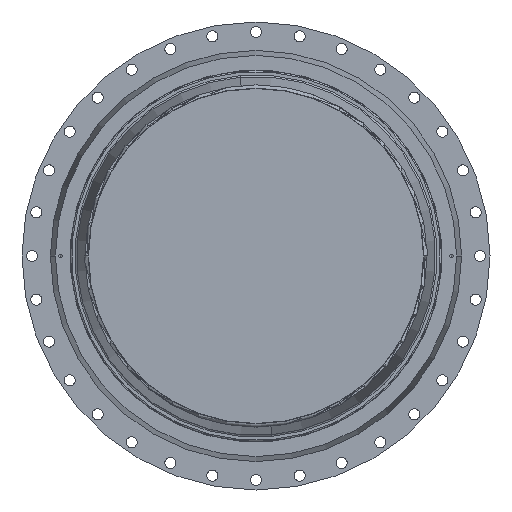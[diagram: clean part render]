
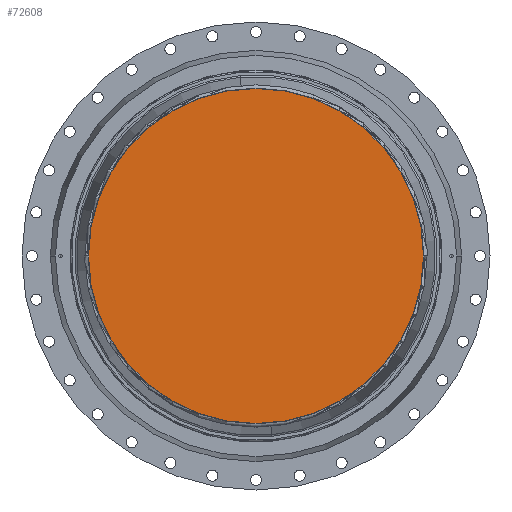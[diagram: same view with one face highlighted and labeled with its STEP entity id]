
A CAD part, front view. The second image highlights one B-rep face of the part: STEP entity #72608.
In plain terms, the highlighted planar face has unit normal (0, -1, 0).
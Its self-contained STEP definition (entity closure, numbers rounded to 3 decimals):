
#8562 = DIRECTION ( 'NONE',  ( 0., -1., 0. ) ) ;
#10126 = AXIS2_PLACEMENT_3D ( 'NONE', #117044, #33230, #131097 ) ;
#10290 = EDGE_CURVE ( 'NONE', #112217, #112946, #96455, .T. ) ;
#10429 = CARTESIAN_POINT ( 'NONE',  ( -501.894, 0., 0. ) ) ;
#18057 = EDGE_CURVE ( 'NONE', #112946, #112217, #145844, .T. ) ;
#33230 = DIRECTION ( 'NONE',  ( 0., -1., 0. ) ) ;
#45872 = ORIENTED_EDGE ( 'NONE', *, *, #10290, .T. ) ;
#46119 = CARTESIAN_POINT ( 'NONE',  ( -0.936, 0., 0. ) ) ;
#47962 = FACE_OUTER_BOUND ( 'NONE', #127648, .T. ) ;
#50058 = ORIENTED_EDGE ( 'NONE', *, *, #18057, .T. ) ;
#53306 = CARTESIAN_POINT ( 'NONE',  ( 500.021, 0., 0. ) ) ;
#60224 = DIRECTION ( 'NONE',  ( 0., 0., 1. ) ) ;
#72608 = ADVANCED_FACE ( 'NONE', ( #47962 ), #117499, .T. ) ;
#92325 = CARTESIAN_POINT ( 'NONE',  ( -502.979, 0., -500000. ) ) ;
#96455 = CIRCLE ( 'NONE', #10126, 500.958 ) ;
#97118 = AXIS2_PLACEMENT_3D ( 'NONE', #46119, #143960, #60224 ) ;
#106398 = DIRECTION ( 'NONE',  ( 0., 0., -1. ) ) ;
#112217 = VERTEX_POINT ( 'NONE', #10429 ) ;
#112946 = VERTEX_POINT ( 'NONE', #53306 ) ;
#117044 = CARTESIAN_POINT ( 'NONE',  ( -0.936, 0., 0. ) ) ;
#117499 = PLANE ( 'NONE',  #165442 ) ;
#127648 = EDGE_LOOP ( 'NONE', ( #50058, #45872 ) ) ;
#131097 = DIRECTION ( 'NONE',  ( 0., 0., 1. ) ) ;
#143960 = DIRECTION ( 'NONE',  ( 0., -1., 0. ) ) ;
#145844 = CIRCLE ( 'NONE', #97118, 500.958 ) ;
#165442 = AXIS2_PLACEMENT_3D ( 'NONE', #92325, #8562, #106398 ) ;
